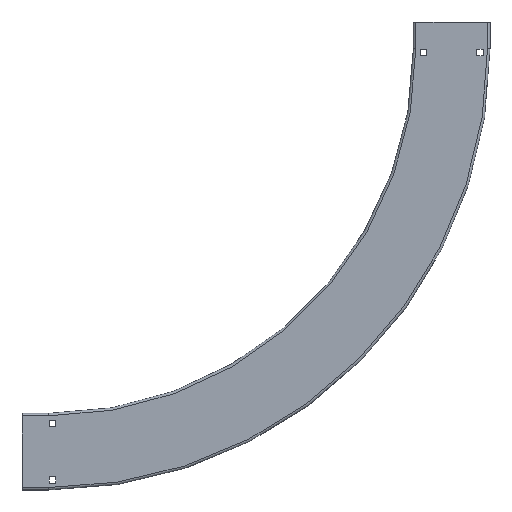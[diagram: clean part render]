
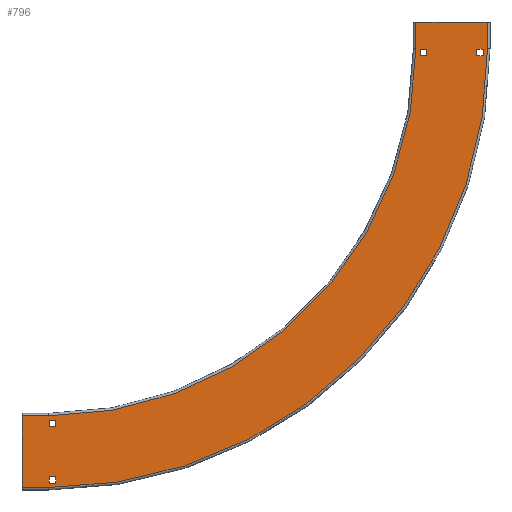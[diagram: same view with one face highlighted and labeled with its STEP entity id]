
A CAD part, left-side view. The second image highlights one B-rep face of the part: STEP entity #796.
In plain terms, the highlighted planar face has unit normal (-1, 0, 0).
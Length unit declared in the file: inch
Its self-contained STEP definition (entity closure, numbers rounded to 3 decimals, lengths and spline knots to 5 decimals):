
#1=DIRECTION('',(0.,0.,-1.));
#2=VECTOR('',#1,4.718);
#3=CARTESIAN_POINT('',(0.,-1.75,28.88));
#4=LINE('',#3,#2);
#5=DIRECTION('',(0.,1.,0.));
#6=VECTOR('',#5,4.718);
#7=CARTESIAN_POINT('',(0.,24.162,-1.75));
#8=LINE('',#7,#6);
#9=DIRECTION('',(0.,0.,-1.));
#10=VECTOR('',#9,0.41);
#11=CARTESIAN_POINT('',(0.,28.5885,0.455));
#12=LINE('',#11,#10);
#13=DIRECTION('',(0.,-1.,0.));
#14=VECTOR('',#13,0.41);
#15=CARTESIAN_POINT('',(0.,28.5885,0.045));
#16=LINE('',#15,#14);
#17=DIRECTION('',(0.,0.,1.));
#18=VECTOR('',#17,0.41);
#19=CARTESIAN_POINT('',(0.,28.1785,0.045));
#20=LINE('',#19,#18);
#21=DIRECTION('',(0.,1.,0.));
#22=VECTOR('',#21,0.41);
#23=CARTESIAN_POINT('',(0.,28.1785,0.455));
#24=LINE('',#23,#22);
#25=DIRECTION('',(0.,1.,0.));
#26=VECTOR('',#25,0.41);
#27=CARTESIAN_POINT('',(0.,24.4535,0.455));
#28=LINE('',#27,#26);
#29=DIRECTION('',(0.,0.,-1.));
#30=VECTOR('',#29,0.41);
#31=CARTESIAN_POINT('',(0.,24.8635,0.455));
#32=LINE('',#31,#30);
#33=DIRECTION('',(0.,-1.,0.));
#34=VECTOR('',#33,0.41);
#35=CARTESIAN_POINT('',(0.,24.8635,0.045));
#36=LINE('',#35,#34);
#37=DIRECTION('',(0.,0.,1.));
#38=VECTOR('',#37,0.41);
#39=CARTESIAN_POINT('',(0.,24.4535,0.045));
#40=LINE('',#39,#38);
#41=DIRECTION('',(0.,0.,-1.));
#42=VECTOR('',#41,0.41);
#43=CARTESIAN_POINT('',(0.,0.455,24.86227));
#44=LINE('',#43,#42);
#45=DIRECTION('',(0.,-1.,0.));
#46=VECTOR('',#45,0.41);
#47=CARTESIAN_POINT('',(0.,0.455,24.45227));
#48=LINE('',#47,#46);
#49=DIRECTION('',(0.,0.,1.));
#50=VECTOR('',#49,0.41);
#51=CARTESIAN_POINT('',(0.,0.045,24.45227));
#52=LINE('',#51,#50);
#53=DIRECTION('',(0.,1.,0.));
#54=VECTOR('',#53,0.41);
#55=CARTESIAN_POINT('',(0.,0.045,24.86227));
#56=LINE('',#55,#54);
#57=DIRECTION('',(0.,0.,1.));
#58=VECTOR('',#57,0.41);
#59=CARTESIAN_POINT('',(0.,0.045,28.17743));
#60=LINE('',#59,#58);
#61=DIRECTION('',(0.,1.,0.));
#62=VECTOR('',#61,0.41);
#63=CARTESIAN_POINT('',(0.,0.045,28.58743));
#64=LINE('',#63,#62);
#65=DIRECTION('',(0.,0.,-1.));
#66=VECTOR('',#65,0.41);
#67=CARTESIAN_POINT('',(0.,0.455,28.58743));
#68=LINE('',#67,#66);
#69=DIRECTION('',(0.,-1.,0.));
#70=VECTOR('',#69,0.41);
#71=CARTESIAN_POINT('',(0.,0.455,28.17743));
#72=LINE('',#71,#70);
#73=DIRECTION('',(0.,0.,1.));
#74=VECTOR('',#73,1.75);
#75=CARTESIAN_POINT('',(0.,28.88,-1.75));
#76=LINE('',#75,#74);
#114=DIRECTION('',(0.,0.,-1.));
#115=VECTOR('',#114,1.75);
#116=CARTESIAN_POINT('',(0.,24.162,0.));
#117=LINE('',#116,#115);
#123=CARTESIAN_POINT('',(0.,0.,0.));
#124=DIRECTION('',(-1.,0.,0.));
#125=DIRECTION('',(0.,0.,1.));
#126=AXIS2_PLACEMENT_3D('',#123,#124,#125);
#128=DIRECTION('',(0.,1.,0.));
#129=VECTOR('',#128,1.75);
#130=CARTESIAN_POINT('',(0.,-1.75,24.162));
#131=LINE('',#130,#129);
#169=DIRECTION('',(0.,-1.,0.));
#170=VECTOR('',#169,1.75);
#171=CARTESIAN_POINT('',(0.,0.,28.88));
#172=LINE('',#171,#170);
#178=CARTESIAN_POINT('',(0.,0.,0.));
#179=DIRECTION('',(1.,0.,0.));
#180=DIRECTION('',(0.,1.,0.));
#181=AXIS2_PLACEMENT_3D('',#178,#179,#180);
#573=CARTESIAN_POINT('',(0.,-1.75,24.162));
#575=VERTEX_POINT('',#573);
#579=CARTESIAN_POINT('',(0.,0.,24.162));
#581=VERTEX_POINT('',#579);
#585=CARTESIAN_POINT('',(0.,24.162,0.));
#587=VERTEX_POINT('',#585);
#591=CARTESIAN_POINT('',(0.,24.162,-1.75));
#593=VERTEX_POINT('',#591);
#621=CARTESIAN_POINT('',(0.,28.88,-1.75));
#622=VERTEX_POINT('',#621);
#623=CARTESIAN_POINT('',(0.,-1.75,28.88));
#624=VERTEX_POINT('',#623);
#629=CARTESIAN_POINT('',(0.,28.88,0.));
#631=VERTEX_POINT('',#629);
#635=CARTESIAN_POINT('',(0.,0.,28.88));
#637=VERTEX_POINT('',#635);
#669=CARTESIAN_POINT('',(0.,28.5885,0.455));
#670=CARTESIAN_POINT('',(0.,28.5885,0.045));
#671=VERTEX_POINT('',#669);
#672=VERTEX_POINT('',#670);
#673=CARTESIAN_POINT('',(0.,28.1785,0.045));
#674=VERTEX_POINT('',#673);
#675=CARTESIAN_POINT('',(0.,28.1785,0.455));
#676=VERTEX_POINT('',#675);
#677=CARTESIAN_POINT('',(0.,24.4535,0.455));
#678=CARTESIAN_POINT('',(0.,24.8635,0.455));
#679=VERTEX_POINT('',#677);
#680=VERTEX_POINT('',#678);
#681=CARTESIAN_POINT('',(0.,24.8635,0.045));
#682=VERTEX_POINT('',#681);
#683=CARTESIAN_POINT('',(0.,24.4535,0.045));
#684=VERTEX_POINT('',#683);
#701=CARTESIAN_POINT('',(0.,0.455,24.86227));
#702=CARTESIAN_POINT('',(0.,0.455,24.45227));
#703=VERTEX_POINT('',#701);
#704=VERTEX_POINT('',#702);
#705=CARTESIAN_POINT('',(0.,0.045,24.45227));
#706=VERTEX_POINT('',#705);
#707=CARTESIAN_POINT('',(0.,0.045,24.86227));
#708=VERTEX_POINT('',#707);
#709=CARTESIAN_POINT('',(0.,0.045,28.17743));
#710=CARTESIAN_POINT('',(0.,0.045,28.58743));
#711=VERTEX_POINT('',#709);
#712=VERTEX_POINT('',#710);
#713=CARTESIAN_POINT('',(0.,0.455,28.58743));
#714=VERTEX_POINT('',#713);
#715=CARTESIAN_POINT('',(0.,0.455,28.17743));
#716=VERTEX_POINT('',#715);
#733=CARTESIAN_POINT('',(0.,0.,0.));
#734=DIRECTION('',(1.,0.,0.));
#735=DIRECTION('',(0.,0.,-1.));
#736=AXIS2_PLACEMENT_3D('',#733,#734,#735);
#737=PLANE('',#736);
#739=ORIENTED_EDGE('',*,*,#738,.T.);
#741=ORIENTED_EDGE('',*,*,#740,.T.);
#743=ORIENTED_EDGE('',*,*,#742,.T.);
#745=ORIENTED_EDGE('',*,*,#744,.T.);
#747=ORIENTED_EDGE('',*,*,#746,.T.);
#749=ORIENTED_EDGE('',*,*,#748,.T.);
#751=ORIENTED_EDGE('',*,*,#750,.T.);
#753=ORIENTED_EDGE('',*,*,#752,.T.);
#754=EDGE_LOOP('',(#739,#741,#743,#745,#747,#749,#751,#753));
#755=FACE_OUTER_BOUND('',#754,.F.);
#757=ORIENTED_EDGE('',*,*,#756,.T.);
#759=ORIENTED_EDGE('',*,*,#758,.T.);
#761=ORIENTED_EDGE('',*,*,#760,.T.);
#763=ORIENTED_EDGE('',*,*,#762,.T.);
#764=EDGE_LOOP('',(#757,#759,#761,#763));
#765=FACE_BOUND('',#764,.F.);
#767=ORIENTED_EDGE('',*,*,#766,.T.);
#769=ORIENTED_EDGE('',*,*,#768,.T.);
#771=ORIENTED_EDGE('',*,*,#770,.T.);
#773=ORIENTED_EDGE('',*,*,#772,.T.);
#774=EDGE_LOOP('',(#767,#769,#771,#773));
#775=FACE_BOUND('',#774,.F.);
#777=ORIENTED_EDGE('',*,*,#776,.T.);
#779=ORIENTED_EDGE('',*,*,#778,.T.);
#781=ORIENTED_EDGE('',*,*,#780,.T.);
#783=ORIENTED_EDGE('',*,*,#782,.T.);
#784=EDGE_LOOP('',(#777,#779,#781,#783));
#785=FACE_BOUND('',#784,.F.);
#787=ORIENTED_EDGE('',*,*,#786,.T.);
#789=ORIENTED_EDGE('',*,*,#788,.T.);
#791=ORIENTED_EDGE('',*,*,#790,.T.);
#793=ORIENTED_EDGE('',*,*,#792,.T.);
#794=EDGE_LOOP('',(#787,#789,#791,#793));
#795=FACE_BOUND('',#794,.F.);
#796=ADVANCED_FACE('',(#755,#765,#775,#785,#795),#737,.F.);
#127=CIRCLE('',#126,24.162);
#182=CIRCLE('',#181,28.88);
#738=EDGE_CURVE('',#622,#631,#76,.T.);
#740=EDGE_CURVE('',#631,#637,#182,.T.);
#742=EDGE_CURVE('',#637,#624,#172,.T.);
#744=EDGE_CURVE('',#624,#575,#4,.T.);
#746=EDGE_CURVE('',#575,#581,#131,.T.);
#748=EDGE_CURVE('',#581,#587,#127,.T.);
#750=EDGE_CURVE('',#587,#593,#117,.T.);
#752=EDGE_CURVE('',#593,#622,#8,.T.);
#756=EDGE_CURVE('',#671,#672,#12,.T.);
#758=EDGE_CURVE('',#672,#674,#16,.T.);
#760=EDGE_CURVE('',#674,#676,#20,.T.);
#762=EDGE_CURVE('',#676,#671,#24,.T.);
#766=EDGE_CURVE('',#679,#680,#28,.T.);
#768=EDGE_CURVE('',#680,#682,#32,.T.);
#770=EDGE_CURVE('',#682,#684,#36,.T.);
#772=EDGE_CURVE('',#684,#679,#40,.T.);
#776=EDGE_CURVE('',#703,#704,#44,.T.);
#778=EDGE_CURVE('',#704,#706,#48,.T.);
#780=EDGE_CURVE('',#706,#708,#52,.T.);
#782=EDGE_CURVE('',#708,#703,#56,.T.);
#786=EDGE_CURVE('',#711,#712,#60,.T.);
#788=EDGE_CURVE('',#712,#714,#64,.T.);
#790=EDGE_CURVE('',#714,#716,#68,.T.);
#792=EDGE_CURVE('',#716,#711,#72,.T.);
